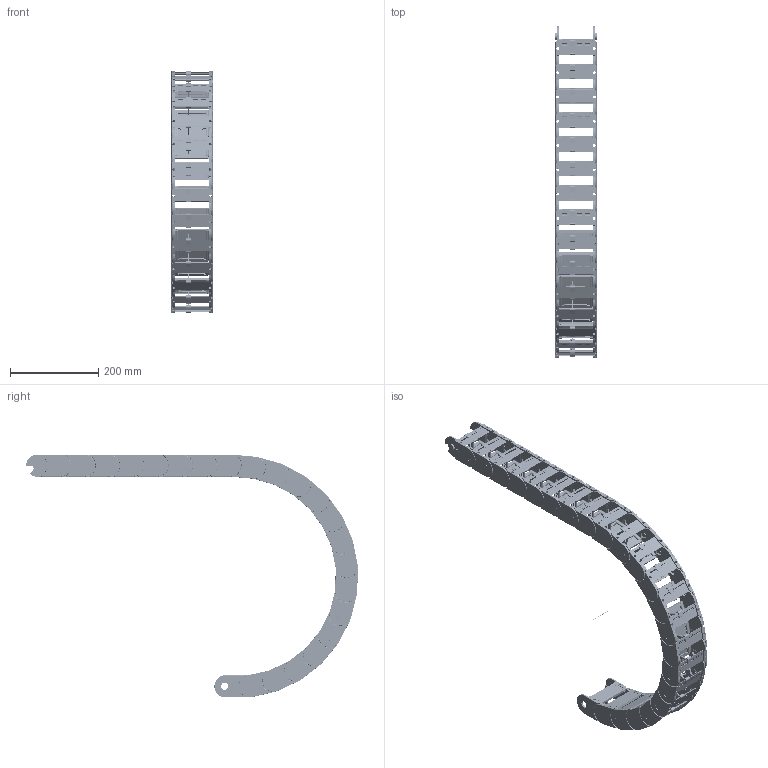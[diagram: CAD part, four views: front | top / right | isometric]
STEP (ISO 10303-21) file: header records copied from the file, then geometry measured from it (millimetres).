
FILE_DESCRIPTION((''),'2;1');
FILE_NAME('C:\Uebbing\PARAMETERKETTEN\KOLIBRI\Kol_50_095_2\KOLIBRI 50_095_2_R250.stp','2012-03-05T09:48:29',('Uebbing'),(''),'Autodesk Inventor 10','Autodesk Inventor 10','');
FILE_SCHEMA(('AUTOMOTIVE_DESIGN { 1 0 10303 214 1 1 1 1 }'));
Length unit declared in the file: millimetre
Products named in the file (6): KOLIBRI 50_095_2_PARAMETRISCH; Achse; Kol_50_095_2; Kol_50_095_2_Lasche; Kol_50_95_0_Klappsteg; Kol_50_095_2 PZ 
Assembly tree (27 placements, depth 3):
  KOLIBRI 50_095_2_PARAMETRISCH
    Achse
    Kol_50_095_2  x23
      Kol_50_095_2_Lasche
      Kol_50_95_0_Klappsteg
      Kol_50_095_2 PZ 
Bounding box: 92.88 x 751.44 x 550.25 mm (x, y, z)
Volume: 1356257 mm3; surface area: 915322.8 mm2
Topology: 70 solids, 70 shells, 19944 faces, 52559 edges, 34273 vertices
Faces by surface type: plane 10697, cylinder 4394, bspline 4255, torus 460, sphere 92, cone 46
Full cylindrical faces by diameter (mm): 1 x1, 2.021 x23, 3.549 x23, 4 x23, 4.036 x23, 4.221 x46, 6.231 x23, 16.08 x23, 16.18 x23
Entity records: 31774 total; most frequent: CARTESIAN_POINT 10434, ORIENTED_EDGE 4498, DIRECTION 4165, EDGE_CURVE 2249, VECTOR 1599, LINE 1599, VERTEX_POINT 1478, AXIS2_PLACEMENT_3D 1283
